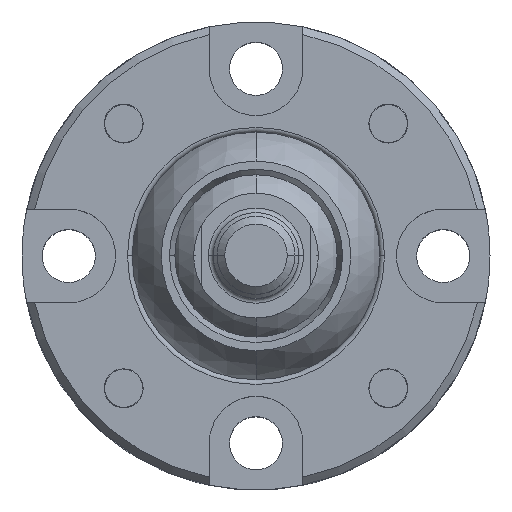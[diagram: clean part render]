
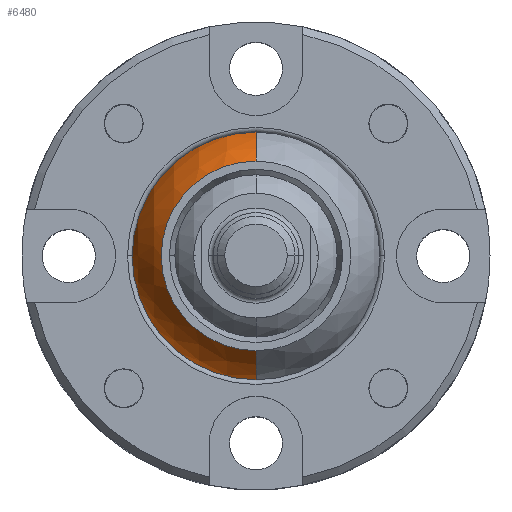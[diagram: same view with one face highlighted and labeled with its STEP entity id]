
A CAD part, top view. The second image highlights one B-rep face of the part: STEP entity #6480.
In plain terms, the highlighted spherical face has radius 8.4 mm.
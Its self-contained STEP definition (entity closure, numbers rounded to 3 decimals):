
#102 = CARTESIAN_POINT ( 'NONE',  ( 0., 0., 0. ) ) ;
#170 = DIRECTION ( 'NONE',  ( 1., 0., 0. ) ) ;
#195 = DIRECTION ( 'NONE',  ( 0., 1., 0. ) ) ;
#213 = CARTESIAN_POINT ( 'NONE',  ( 0., 0., -5.8 ) ) ;
#228 = SPHERICAL_SURFACE ( 'NONE', #2862, 8.4 ) ;
#509 = AXIS2_PLACEMENT_3D ( 'NONE', #6474, #5011, #3470 ) ;
#538 = DIRECTION ( 'NONE',  ( 0., 0., 1. ) ) ;
#647 = EDGE_CURVE ( 'NONE', #1687, #4018, #5141, .T. ) ;
#676 = DIRECTION ( 'NONE',  ( 0., 0., 1. ) ) ;
#1540 = ORIENTED_EDGE ( 'NONE', *, *, #647, .T. ) ;
#1687 = VERTEX_POINT ( 'NONE', #2220 ) ;
#1742 = CARTESIAN_POINT ( 'NONE',  ( 0., 0., 5.8 ) ) ;
#1768 = AXIS2_PLACEMENT_3D ( 'NONE', #1742, #4435, #6489 ) ;
#2044 = CIRCLE ( 'NONE', #5499, 8.4 ) ;
#2192 = EDGE_LOOP ( 'NONE', ( #1540, #4873, #3582, #6653 ) ) ;
#2220 = CARTESIAN_POINT ( 'NONE',  ( 0., 6.076, -5.8 ) ) ;
#2598 = VERTEX_POINT ( 'NONE', #4039 ) ;
#2675 = CIRCLE ( 'NONE', #509, 8.4 ) ;
#2735 = EDGE_CURVE ( 'NONE', #4018, #2598, #2044, .T. ) ;
#2862 = AXIS2_PLACEMENT_3D ( 'NONE', #2866, #5905, #195 ) ;
#2866 = CARTESIAN_POINT ( 'NONE',  ( 0., 0., 0. ) ) ;
#2943 = EDGE_CURVE ( 'NONE', #6363, #2598, #6527, .T. ) ;
#3201 = AXIS2_PLACEMENT_3D ( 'NONE', #213, #676, #170 ) ;
#3470 = DIRECTION ( 'NONE',  ( 0., 0., -1. ) ) ;
#3582 = ORIENTED_EDGE ( 'NONE', *, *, #2943, .F. ) ;
#3704 = DIRECTION ( 'NONE',  ( -1., 0., 0. ) ) ;
#3811 = EDGE_CURVE ( 'NONE', #1687, #6363, #2675, .T. ) ;
#4018 = VERTEX_POINT ( 'NONE', #4076 ) ;
#4039 = CARTESIAN_POINT ( 'NONE',  ( 0., -6.076, 5.8 ) ) ;
#4076 = CARTESIAN_POINT ( 'NONE',  ( 0., -6.076, -5.8 ) ) ;
#4435 = DIRECTION ( 'NONE',  ( 0., 0., 1. ) ) ;
#4873 = ORIENTED_EDGE ( 'NONE', *, *, #2735, .T. ) ;
#5011 = DIRECTION ( 'NONE',  ( 1., 0., 0. ) ) ;
#5141 = CIRCLE ( 'NONE', #3201, 6.076 ) ;
#5499 = AXIS2_PLACEMENT_3D ( 'NONE', #102, #3704, #538 ) ;
#5743 = CARTESIAN_POINT ( 'NONE',  ( 0., 6.076, 5.8 ) ) ;
#5905 = DIRECTION ( 'NONE',  ( -1., 0., 0. ) ) ;
#6363 = VERTEX_POINT ( 'NONE', #5743 ) ;
#6452 = FACE_OUTER_BOUND ( 'NONE', #2192, .T. ) ;
#6474 = CARTESIAN_POINT ( 'NONE',  ( 0., 0., 0. ) ) ;
#6480 = ADVANCED_FACE ( 'NONE', ( #6452 ), #228, .T. ) ;
#6489 = DIRECTION ( 'NONE',  ( 1., 0., 0. ) ) ;
#6527 = CIRCLE ( 'NONE', #1768, 6.076 ) ;
#6653 = ORIENTED_EDGE ( 'NONE', *, *, #3811, .F. ) ;
